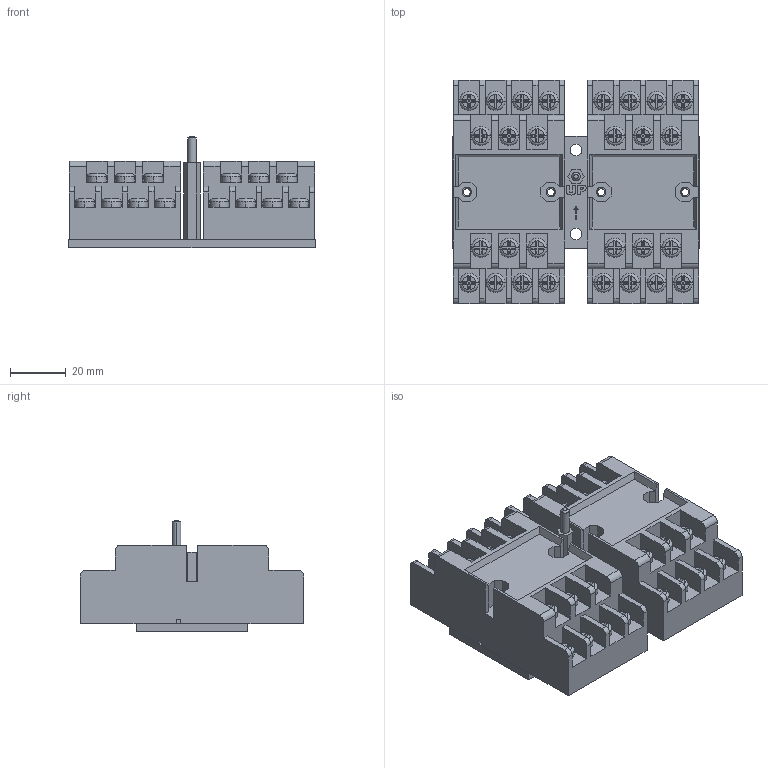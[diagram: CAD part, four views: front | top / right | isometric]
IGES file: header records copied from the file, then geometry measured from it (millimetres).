
Global section: file name: No Iges File Name specified; native system: Autodesk Inventor 2009; preprocessor: AutoDesk Inventor Iges Exporter R2009; author: Niriawan; date: 20080908.101333; units: millimetre
Bounding box: 88 x 80 x 40 mm (x, y, z)
Volume: 146714.7 mm3; surface area: 37080.9 mm2
Topology: 1 solids, 1 shells, 918 faces, 2618 edges, 1742 vertices
Faces by surface type: plane 728, cylinder 96, torus 56, bspline 28, revolution 8, cone 2
